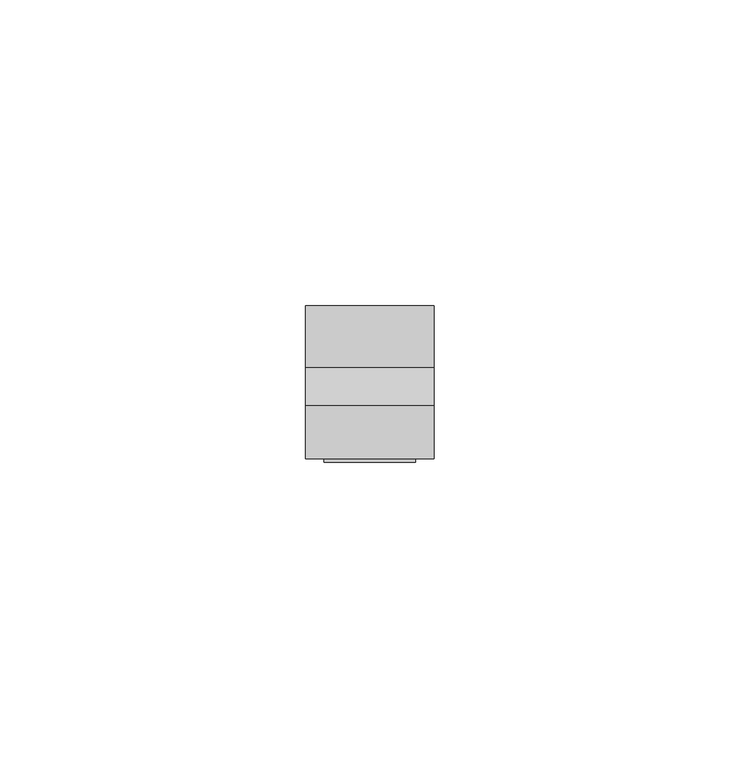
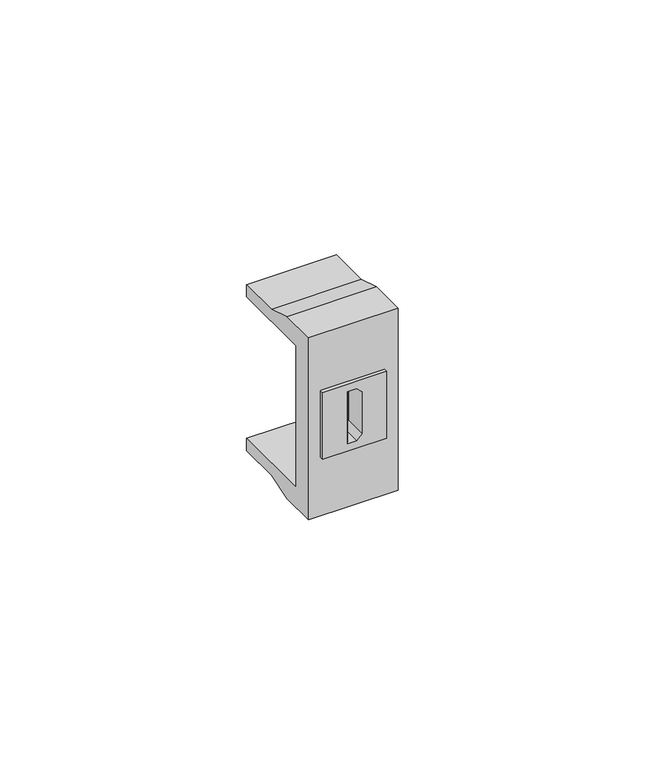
"""IFC4 building model written with IfcOpenShell, lengths in millimetres: proxy geometry, КНС_КомпьютерныеРозеткиRJ45_DKC : Белый."""

from ifc_helpers import new_model, si_unit, origin, place, context, project, spatial, faceted_brep, source, transform, mapped, element, save


def electrical_fixtures_f2173361(model_context):
    return source(origin(), model_context, "Body", "Brep", [
        faceted_brep([(7.476911, -25.5, 8.25), (-7.523089, -25.5, 8.25), (-7.523089, -25.5, -8.25), (7.476911, -25.5, -8.25), (-1.6145417, -25.5, 6.436967), (0.5010209, -25.5, 6.436967), (1.7450646, -25.5, 5.1929232), (1.7450646, -25.5, -5.1929232), (0.5010209, -25.5, -6.436967), (-1.6145417, -25.5, -6.436967), (7.476911, -16.2913439, 8.25), (7.476911, -16.2913439, -8.25), (-7.523089, -16.2913439, -8.25), (-7.523089, -16.2913439, 8.25), (0.5010209, -20.0, 6.436967), (-1.6145417, -20.0, 6.436967), (-1.6145417, -20.0, -6.436967), (0.5010209, -20.0, -6.436967), (1.7450646, -20.0, -5.1929232), (1.7450646, -20.0, 5.1929232)], [[[0, 1, 2, 3], [4, 5, 6, 7, 8, 9]], [[10, 11, 12, 13]], [[1, 0, 10, 13]], [[2, 1, 13, 12]], [[3, 2, 12, 11]], [[0, 3, 11, 10]], [[14, 15, 16, 17, 18, 19]], [[15, 14, 5, 4]], [[16, 15, 4, 9]], [[17, 16, 9, 8]], [[18, 17, 8, 7]], [[19, 18, 7, 6]], [[14, 19, 6, 5]]]),
        faceted_brep([(7.476911, -25.5, 8.25), (-7.476911, -25.5, 8.25), (-7.476911, -25.5, -8.25), (7.476911, -25.5, -8.25), (-1.5683637, -25.5, 6.436967), (0.5010209, -25.5, 6.436967), (1.7450646, -25.5, 5.1929232), (1.7450646, -25.5, -5.1929232), (0.5010209, -25.5, -6.436967), (-1.5683637, -25.5, -6.436967), (7.476911, -16.2913439, 8.25), (7.476911, -16.2913439, -8.25), (-7.476911, -16.2913439, -8.25), (-7.476911, -16.2913439, 8.25), (0.5010209, -20.0, 6.436967), (-1.5683637, -20.0, 6.436967), (-1.5683637, -20.0, -6.436967), (0.5010209, -20.0, -6.436967), (1.7450646, -20.0, -5.1929232), (1.7450646, -20.0, 5.1929232)], [[[0, 1, 2, 3], [4, 5, 6, 7, 8, 9]], [[10, 11, 12, 13]], [[1, 0, 10, 13]], [[2, 1, 13, 12]], [[3, 2, 12, 11]], [[0, 3, 11, 10]], [[14, 15, 16, 17, 18, 19]], [[15, 14, 5, 4]], [[16, 15, 4, 9]], [[17, 16, 9, 8]], [[18, 17, 8, 7]], [[19, 18, 7, 6]], [[14, 19, 6, 5]]]),
        faceted_brep([(10.5, -25.0, 22.5), (-10.5, -25.0, 22.5), (-10.5, -25.0, -22.5), (10.5, -25.0, -22.5), (-1.6145417, -25.0, 6.436967), (0.5010209, -25.0, 6.436967), (1.7450646, -25.0, 5.1929232), (1.7450646, -25.0, -5.1929232), (0.5010209, -25.0, -6.436967), (-1.6145417, -25.0, -6.436967), (10.5, 0.0, 20.5), (10.5, 0.0, 17.5), (-10.5, 0.0, 17.5), (-10.5, 0.0, 20.5), (10.5, 0.0, -17.5), (10.5, 0.0, -20.5), (-10.5, 0.0, -20.5), (-10.5, 0.0, -17.5), (10.5, -16.2913439, 22.5), (-10.5, -16.2913439, 22.5), (-10.5, -10.0, 20.5), (-10.5, -20.0, 17.5), (-10.5, -20.0, -17.5), (-10.5, -10.0, -20.5), (-10.5, -16.2913439, -22.5), (10.5, -16.2913439, -22.5), (10.5, -10.0, -20.5), (10.5, -20.0, -17.5), (10.5, -20.0, 17.5), (10.5, -10.0, 20.5), (0.5010209, -20.0, 6.436967), (-1.6145417, -20.0, 6.436967), (-1.6145417, -20.0, -6.436967), (0.5010209, -20.0, -6.436967), (1.7450646, -20.0, -5.1929232), (1.7450646, -20.0, 5.1929232)], [[[0, 1, 2, 3], [4, 5, 6, 7, 8, 9]], [[10, 11, 12, 13]], [[14, 15, 16, 17]], [[1, 0, 18, 19]], [[2, 1, 19, 20, 13, 12, 21, 22, 17, 16, 23, 24]], [[3, 2, 24, 25]], [[0, 3, 25, 26, 15, 14, 27, 28, 11, 10, 29, 18]], [[22, 27, 14, 17]], [[28, 21, 12, 11]], [[27, 22, 21, 28], [30, 31, 32, 33, 34, 35]], [[20, 29, 10, 13]], [[29, 20, 19, 18]], [[26, 23, 16, 15]], [[23, 26, 25, 24]], [[30, 5, 4, 31]], [[31, 4, 9, 32]], [[32, 9, 8, 33]], [[33, 8, 7, 34]], [[34, 7, 6, 35]], [[5, 30, 35, 6]]]),
    ])


if __name__ == "__main__":
    model = new_model("IFC4")
    model_context = context("Model", 3, world=origin())
    ifc_project = project(units=[si_unit("LENGTHUNIT", "METRE", prefix="MILLI")], contexts=[model_context])
    site = spatial("IfcSite", under=ifc_project)
    building = spatial("IfcBuilding", under=site)
    placement = place(None, origin())
    electrical_fixtures_shape = electrical_fixtures_f2173361(model_context)
    element("IfcBuildingElementProxy", 1, Name="КНС_КомпьютерныеРозеткиRJ45_DKC : Белый", ObjectType="КНС_КомпьютерныеРозеткиRJ45_DKC : Белый", at=placement, inside=building, context=model_context, shape_type="MappedRepresentation", body=[
        mapped(electrical_fixtures_shape, transform((0.0, 0.0, 0.0), x_axis=(1.0, 0.0, 0.0), y_axis=(0.0, 1.0, 0.0), z_axis=(0.0, 0.0, 1.0))),
    ])
    save(model, "model.ifc")
